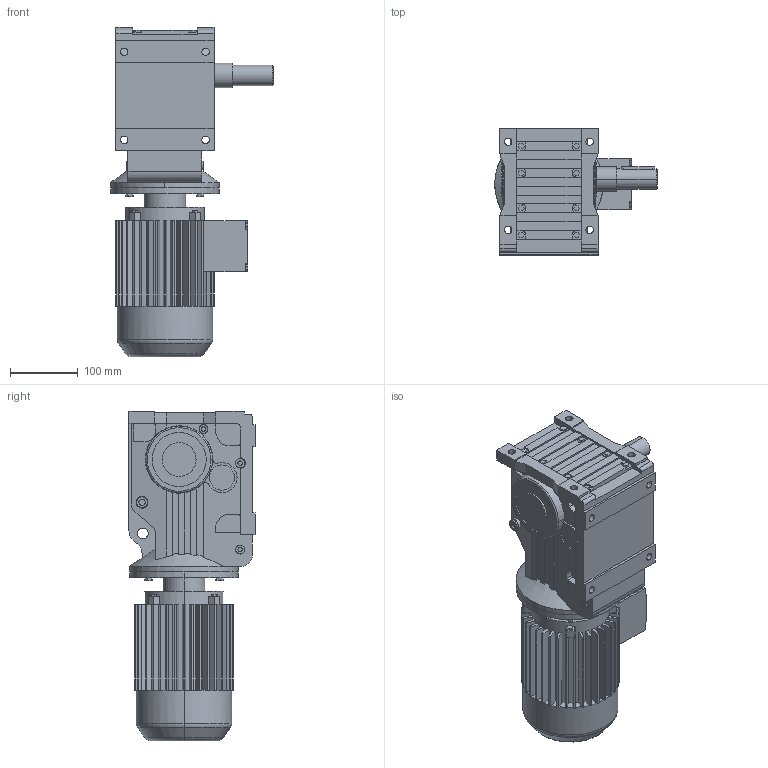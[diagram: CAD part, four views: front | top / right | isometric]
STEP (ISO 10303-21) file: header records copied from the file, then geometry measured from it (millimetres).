
FILE_DESCRIPTION(('Open CASCADE Model'),'2;1');
FILE_NAME('Open CASCADE Shape Model','2021-06-18T11:20:59',('Author'),( 'Open CASCADE'),'Open CASCADE STEP processor 6.3','Open CASCADE 6.3' ,'Unknown');
FILE_SCHEMA(('AUTOMOTIVE_DESIGN_CC2 { 1 2 10303 214 -1 1 5 4 }'));
Length unit declared in the file: millimetre
Products named in the file (4): 1_K47DT80-A; K37‵157_47.step; 萇儂_160-DT80-249-313-145-122.step; す瑩妗陑粣K_47.step
Assembly tree (3 placements, depth 2):
  1_K47DT80-A
    K37‵157_47.step
    萇儂_160-DT80-249-313-145-122.step
    す瑩妗陑粣K_47.step
Bounding box: 240 x 186 x 486 mm (x, y, z)
Volume: 8200892.8 mm3; surface area: 575558 mm2
Topology: 3 solids, 3 shells, 834 faces, 2199 edges, 1428 vertices
Faces by surface type: plane 582, cylinder 230, cone 14, torus 8
Entity records: 57219 total; most frequent: CARTESIAN_POINT 15418, DIRECTION 7207, ORIENTED_EDGE 4394, PCURVE 4394, DEFINITIONAL_REPRESENTATION 4394, LINE 3929, VECTOR 3929, EDGE_CURVE 2197
